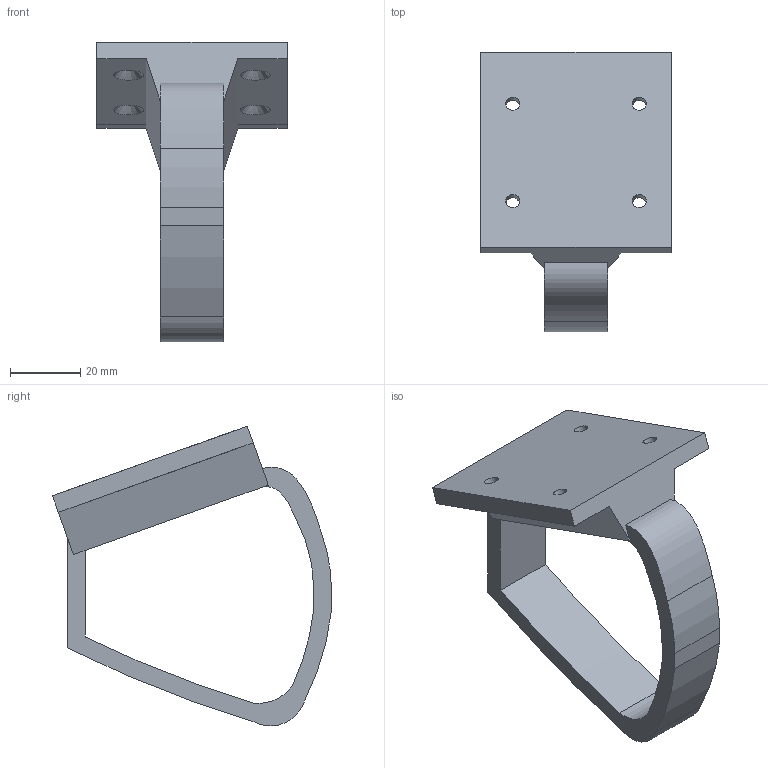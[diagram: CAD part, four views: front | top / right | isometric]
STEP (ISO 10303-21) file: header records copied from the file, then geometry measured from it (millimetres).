
FILE_DESCRIPTION(/* description */ (''),/* implementation_level */ '2;1');
FILE_NAME(/* name */ 'ComputerSpeakerBracket Right.step',/* time_stamp */ '2025-07-26T11:11:01-04:00',/* author */ (''),/* organization */ (''),/* preprocessor_version */ 'ST-DEVELOPER v20.1',/* originating_system */ 'Autodesk Translation Framework v14.10.0.0',/* authorisation */ '');
FILE_SCHEMA (('AUTOMOTIVE_DESIGN { 1 0 10303 214 3 1 1 }'));
Length unit declared in the file: millimetre
Products named in the file (2): ComputerSpeakerBracket Right; RightBracket
Assembly tree (1 placements, depth 2):
  ComputerSpeakerBracket Right
    RightBracket
Bounding box: 54 x 79.28 x 85.09 mm (x, y, z)
Volume: 47382.3 mm3; surface area: 16721.7 mm2
Topology: 1 solids, 1 shells, 38 faces, 110 edges, 72 vertices
Faces by surface type: plane 20, cylinder 12, bspline 6
Full cylindrical faces by diameter (mm): 4 x4
Entity records: 1589 total; most frequent: CARTESIAN_POINT 553, ORIENTED_EDGE 220, DIRECTION 184, EDGE_CURVE 110, LINE 74, VECTOR 74, VERTEX_POINT 72, AXIS2_PLACEMENT_3D 55
